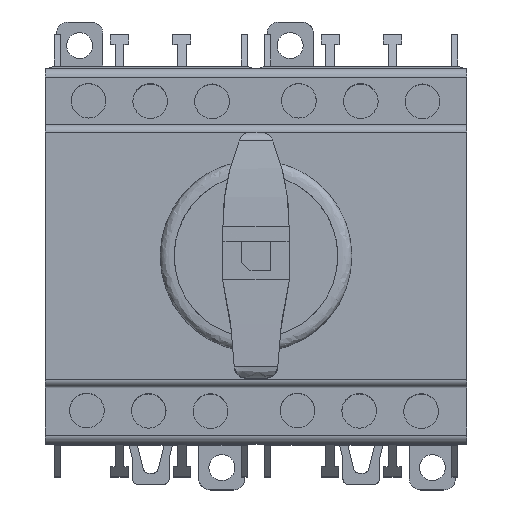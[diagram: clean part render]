
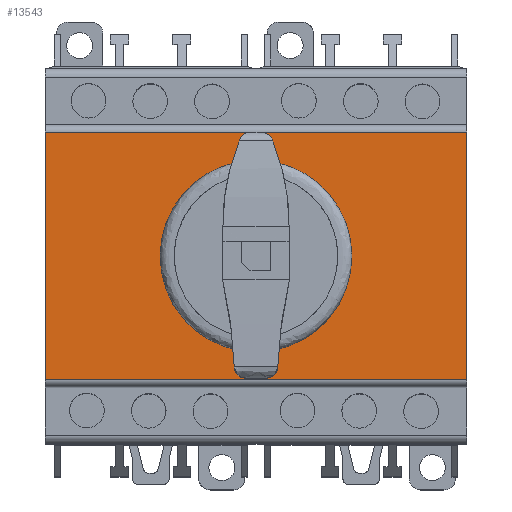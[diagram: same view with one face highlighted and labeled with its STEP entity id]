
A CAD part, top view. The second image highlights one B-rep face of the part: STEP entity #13543.
In plain terms, the highlighted planar face has unit normal (0, 0, 1).
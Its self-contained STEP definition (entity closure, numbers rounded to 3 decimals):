
#184 = CARTESIAN_POINT ( 'NONE',  ( -36.424, 21.281, 73.7 ) ) ;
#398 = CARTESIAN_POINT ( 'NONE',  ( 36.424, 21.281, 73.7 ) ) ;
#1652 = VECTOR ( 'NONE', #12999, 1000. ) ;
#1793 = LINE ( 'NONE', #5035, #13553 ) ;
#1910 = VERTEX_POINT ( 'NONE', #398 ) ;
#2097 = DIRECTION ( 'NONE',  ( 0., 0., 1. ) ) ;
#2252 = ORIENTED_EDGE ( 'NONE', *, *, #13309, .F. ) ;
#2593 = CARTESIAN_POINT ( 'NONE',  ( 36.424, -21.486, 73.7 ) ) ;
#2906 = ORIENTED_EDGE ( 'NONE', *, *, #7874, .F. ) ;
#3073 = CARTESIAN_POINT ( 'NONE',  ( -36.424, -21.486, 73.7 ) ) ;
#3418 = VECTOR ( 'NONE', #5670, 1000. ) ;
#3881 = VERTEX_POINT ( 'NONE', #5540 ) ;
#4001 = AXIS2_PLACEMENT_3D ( 'NONE', #12440, #2097, #4810 ) ;
#4097 = CARTESIAN_POINT ( 'NONE',  ( 36.424, -21.486, 73.7 ) ) ;
#4427 = CARTESIAN_POINT ( 'NONE',  ( 36.424, -21.486, 73.7 ) ) ;
#4810 = DIRECTION ( 'NONE',  ( 0., -1., 0. ) ) ;
#4887 = VERTEX_POINT ( 'NONE', #184 ) ;
#5035 = CARTESIAN_POINT ( 'NONE',  ( -36.424, -21.486, 73.7 ) ) ;
#5047 = VERTEX_POINT ( 'NONE', #3073 ) ;
#5078 = ORIENTED_EDGE ( 'NONE', *, *, #10461, .F. ) ;
#5203 = DIRECTION ( 'NONE',  ( 0., 1., 0. ) ) ;
#5540 = CARTESIAN_POINT ( 'NONE',  ( 36.424, -21.486, 73.7 ) ) ;
#5670 = DIRECTION ( 'NONE',  ( -1., 0., 0. ) ) ;
#6264 = CIRCLE ( 'NONE', #4001, 16.591 ) ;
#6789 = DIRECTION ( 'NONE',  ( -1., 0., 0. ) ) ;
#7198 = EDGE_LOOP ( 'NONE', ( #2252 ) ) ;
#7765 = ORIENTED_EDGE ( 'NONE', *, *, #8280, .T. ) ;
#7830 = EDGE_CURVE ( 'NONE', #1910, #4887, #11788, .T. ) ;
#7874 = EDGE_CURVE ( 'NONE', #3881, #5047, #10186, .T. ) ;
#7895 = DIRECTION ( 'NONE',  ( 0., 0., 1. ) ) ;
#8280 = EDGE_CURVE ( 'NONE', #3881, #1910, #11381, .T. ) ;
#9347 = CARTESIAN_POINT ( 'NONE',  ( 36.424, 21.281, 73.7 ) ) ;
#9440 = DIRECTION ( 'NONE',  ( 0., -1., 0. ) ) ;
#10186 = LINE ( 'NONE', #4427, #3418 ) ;
#10461 = EDGE_CURVE ( 'NONE', #5047, #4887, #1793, .T. ) ;
#11232 = FACE_BOUND ( 'NONE', #7198, .T. ) ;
#11381 = LINE ( 'NONE', #2593, #1652 ) ;
#11788 = LINE ( 'NONE', #9347, #15821 ) ;
#12440 = CARTESIAN_POINT ( 'NONE',  ( 0., -0.153, 73.7 ) ) ;
#12680 = ORIENTED_EDGE ( 'NONE', *, *, #7830, .T. ) ;
#12999 = DIRECTION ( 'NONE',  ( 0., 1., 0. ) ) ;
#13309 = EDGE_CURVE ( 'NONE', #14761, #14761, #6264, .T. ) ;
#13543 = ADVANCED_FACE ( 'NONE', ( #11232, #15261 ), #15570, .T. ) ;
#13553 = VECTOR ( 'NONE', #5203, 1000. ) ;
#14761 = VERTEX_POINT ( 'NONE', #16430 ) ;
#15261 = FACE_OUTER_BOUND ( 'NONE', #16077, .T. ) ;
#15570 = PLANE ( 'NONE',  #16122 ) ;
#15821 = VECTOR ( 'NONE', #6789, 1000. ) ;
#16077 = EDGE_LOOP ( 'NONE', ( #5078, #2906, #7765, #12680 ) ) ;
#16122 = AXIS2_PLACEMENT_3D ( 'NONE', #4097, #7895, #9440 ) ;
#16430 = CARTESIAN_POINT ( 'NONE',  ( 0., -16.744, 73.7 ) ) ;
